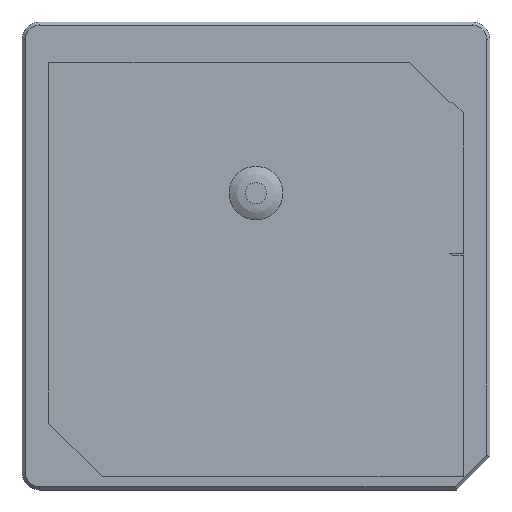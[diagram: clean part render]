
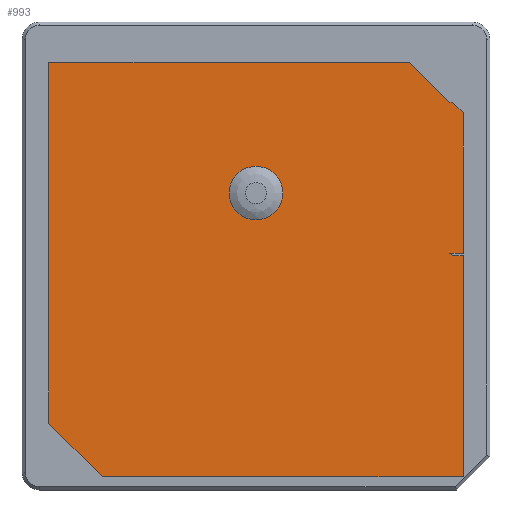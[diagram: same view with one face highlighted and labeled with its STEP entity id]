
A CAD part, top view. The second image highlights one B-rep face of the part: STEP entity #993.
In plain terms, the highlighted planar face has unit normal (0, 0, 1).
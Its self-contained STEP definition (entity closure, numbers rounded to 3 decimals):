
#19=FACE_BOUND('',#182,.T.);
#64=PLANE('',#1091);
#120=FACE_OUTER_BOUND('',#181,.T.);
#181=EDGE_LOOP('',(#858,#859,#860,#861,#862,#863,#864,#865,#866,#867,#868,
#869));
#182=EDGE_LOOP('',(#870));
#209=LINE('',#1441,#308);
#212=LINE('',#1447,#311);
#214=LINE('',#1452,#313);
#218=LINE('',#1461,#317);
#220=LINE('',#1465,#319);
#227=LINE('',#1522,#326);
#230=LINE('',#1531,#329);
#232=LINE('',#1536,#331);
#250=LINE('',#1577,#349);
#253=LINE('',#1583,#352);
#281=LINE('',#1649,#380);
#282=LINE('',#1651,#381);
#308=VECTOR('',#1170,1000.);
#311=VECTOR('',#1175,1000.);
#313=VECTOR('',#1179,10.);
#317=VECTOR('',#1185,10.);
#319=VECTOR('',#1189,1000.);
#326=VECTOR('',#1224,1000.);
#329=VECTOR('',#1235,1000.);
#331=VECTOR('',#1239,10.);
#349=VECTOR('',#1275,1000.);
#352=VECTOR('',#1280,1000.);
#380=VECTOR('',#1356,1000.);
#381=VECTOR('',#1359,1000.);
#398=CIRCLE('',#1043,2.);
#436=VERTEX_POINT('',#1435);
#438=VERTEX_POINT('',#1439);
#440=VERTEX_POINT('',#1445);
#442=VERTEX_POINT('',#1451);
#445=VERTEX_POINT('',#1458);
#446=VERTEX_POINT('',#1460);
#447=VERTEX_POINT('',#1464);
#452=VERTEX_POINT('',#1504);
#458=VERTEX_POINT('',#1528);
#460=VERTEX_POINT('',#1535);
#473=VERTEX_POINT('',#1574);
#474=VERTEX_POINT('',#1576);
#476=VERTEX_POINT('',#1582);
#528=EDGE_CURVE('',#436,#438,#209,.T.);
#531=EDGE_CURVE('',#438,#440,#212,.T.);
#533=EDGE_CURVE('',#436,#442,#214,.T.);
#537=EDGE_CURVE('',#446,#445,#218,.T.);
#539=EDGE_CURVE('',#447,#442,#220,.T.);
#547=EDGE_CURVE('',#452,#452,#398,.T.);
#555=EDGE_CURVE('',#445,#447,#227,.T.);
#558=EDGE_CURVE('',#458,#446,#230,.T.);
#560=EDGE_CURVE('',#458,#460,#232,.T.);
#580=EDGE_CURVE('',#474,#473,#250,.T.);
#583=EDGE_CURVE('',#476,#474,#253,.T.);
#617=EDGE_CURVE('',#440,#476,#281,.T.);
#618=EDGE_CURVE('',#473,#460,#282,.T.);
#858=ORIENTED_EDGE('',*,*,#617,.T.);
#859=ORIENTED_EDGE('',*,*,#583,.T.);
#860=ORIENTED_EDGE('',*,*,#580,.T.);
#861=ORIENTED_EDGE('',*,*,#618,.T.);
#862=ORIENTED_EDGE('',*,*,#560,.F.);
#863=ORIENTED_EDGE('',*,*,#558,.T.);
#864=ORIENTED_EDGE('',*,*,#537,.T.);
#865=ORIENTED_EDGE('',*,*,#555,.T.);
#866=ORIENTED_EDGE('',*,*,#539,.T.);
#867=ORIENTED_EDGE('',*,*,#533,.F.);
#868=ORIENTED_EDGE('',*,*,#528,.T.);
#869=ORIENTED_EDGE('',*,*,#531,.T.);
#870=ORIENTED_EDGE('',*,*,#547,.F.);
#993=ADVANCED_FACE('',(#120,#19),#64,.F.);
#1043=AXIS2_PLACEMENT_3D('',#1506,#1203,#1204);
#1091=AXIS2_PLACEMENT_3D('',#1650,#1357,#1358);
#1170=DIRECTION('',(-0.707,0.707,0.));
#1175=DIRECTION('',(-1.,0.,0.));
#1179=DIRECTION('',(1.,0.,0.));
#1185=DIRECTION('',(1.,0.,0.));
#1189=DIRECTION('',(-0.707,0.707,0.));
#1203=DIRECTION('center_axis',(0.,0.,
1.));
#1204=DIRECTION('ref_axis',(1.,0.,0.));
#1224=DIRECTION('',(0.,1.,0.));
#1235=DIRECTION('',(-0.707,0.707,0.));
#1239=DIRECTION('',(1.,0.,0.));
#1275=DIRECTION('',(1.,0.,0.));
#1280=DIRECTION('',(0.707,-0.707,0.));
#1356=DIRECTION('',(0.,-1.,0.));
#1357=DIRECTION('center_axis',(0.,0.,
-1.));
#1358=DIRECTION('ref_axis',(1.,0.,0.));
#1359=DIRECTION('',(0.,1.,0.));
#1435=CARTESIAN_POINT('',(14.5,11.5,3.15));
#1439=CARTESIAN_POINT('',(11.5,14.5,3.15));
#1441=CARTESIAN_POINT('',(15.5,10.5,3.15));
#1445=CARTESIAN_POINT('',(-15.5,14.5,3.15));
#1447=CARTESIAN_POINT('',(11.5,14.5,3.15));
#1451=CARTESIAN_POINT('',(14.7,11.5,3.15));
#1452=CARTESIAN_POINT('',(0.,11.5,3.15));
#1458=CARTESIAN_POINT('',(15.5,0.2,3.15));
#1460=CARTESIAN_POINT('',(14.5,0.2,3.15));
#1461=CARTESIAN_POINT('',(0.,0.2,3.15));
#1464=CARTESIAN_POINT('',(15.5,10.7,3.15));
#1465=CARTESIAN_POINT('',(15.5,10.7,3.15));
#1504=CARTESIAN_POINT('',(0.,2.7,3.15));
#1506=CARTESIAN_POINT('Origin',(0.,4.7,3.15));
#1522=CARTESIAN_POINT('',(15.5,10.7,3.15));
#1528=CARTESIAN_POINT('',(14.7,0.,3.15));
#1531=CARTESIAN_POINT('',(15.5,-0.8,3.15));
#1535=CARTESIAN_POINT('',(15.5,0.,3.15));
#1536=CARTESIAN_POINT('',(0.,0.,3.15));
#1574=CARTESIAN_POINT('',(15.5,-16.5,3.15));
#1576=CARTESIAN_POINT('',(-11.5,-16.5,3.15));
#1577=CARTESIAN_POINT('',(15.5,-16.5,3.15));
#1582=CARTESIAN_POINT('',(-15.5,-12.5,3.15));
#1583=CARTESIAN_POINT('',(-15.5,-12.5,3.15));
#1649=CARTESIAN_POINT('',(-15.5,14.5,3.15));
#1650=CARTESIAN_POINT('Origin',(0.,0.,
3.15));
#1651=CARTESIAN_POINT('',(15.5,10.5,3.15));
